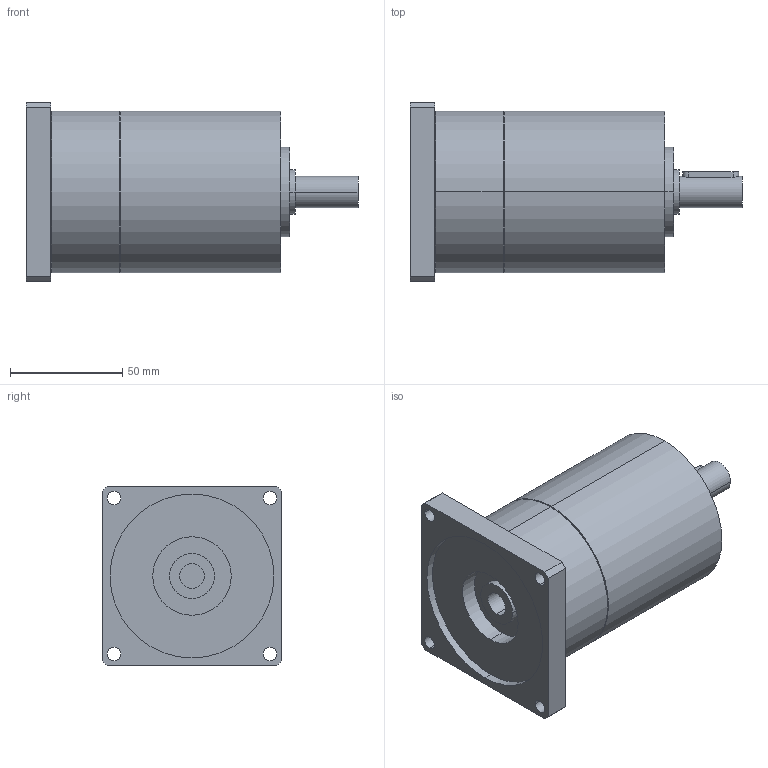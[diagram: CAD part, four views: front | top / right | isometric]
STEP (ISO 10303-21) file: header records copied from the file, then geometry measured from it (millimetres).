
FILE_DESCRIPTION(('CoCreate Modeling STEP Export'),'2;1');
FILE_NAME('GPT75_ig-9-12-16-20-25-28-35-40-50-70-100_14_B14T_11_P06.stp','2014-08-27T13:08:25',(''),(''),'CoCreate Modeling STEP processor for AP214 (Solid Model)','CoCreate Modeling 16.00C 25-Feb-2009 (C) Parametric Technology GmbH','');
FILE_SCHEMA(('AUTOMOTIVE_DESIGN { 1 0 10303 214 1 1 1 1 }'));
Length unit declared in the file: millimetre
Products named in the file (2): GPT75_ig-9-12-16-20-25-28-35-40-50-70-100_14_B14T_11_P06
Assembly tree (1 placements, depth 2):
  GPT75_ig-9-12-16-20-25-28-35-40-50-70-100_14_B14T_11_P06
    GPT75_ig-9-12-16-20-25-28-35-40-50-70-100_14_B14T_11_P06
Bounding box: 148 x 80 x 80 mm (x, y, z)
Volume: 471863.1 mm3; surface area: 46138.6 mm2
Topology: 1 solids, 1 shells, 69 faces, 166 edges, 113 vertices
Faces by surface type: cylinder 42, plane 23, cone 4
Entity records: 2161 total; most frequent: CARTESIAN_POINT 664, ORIENTED_EDGE 332, DIRECTION 262, EDGE_CURVE 166, VERTEX_POINT 113, AXIS2_PLACEMENT_3D 99, EDGE_LOOP 91, FACE_OUTER_BOUND 69
